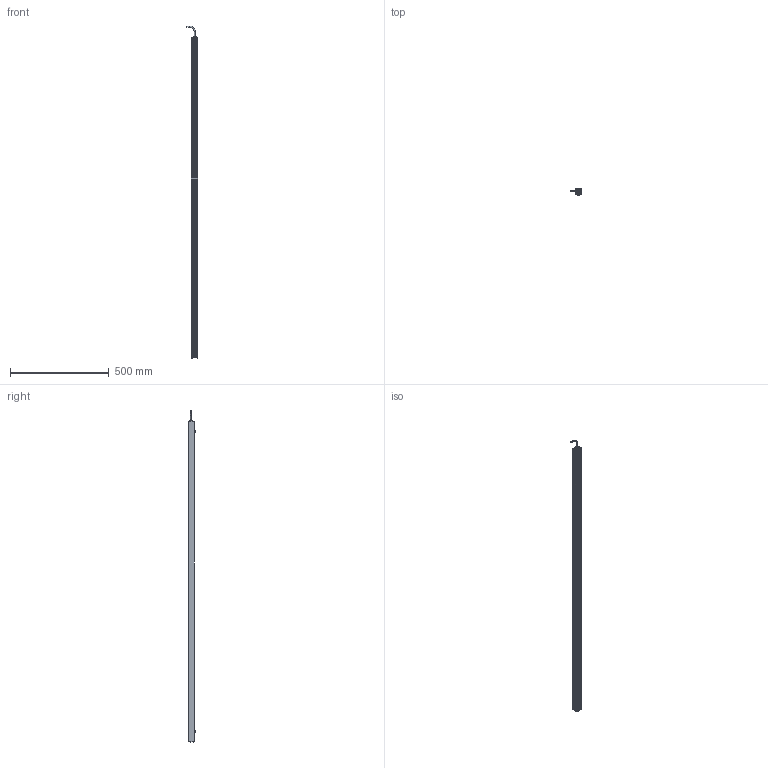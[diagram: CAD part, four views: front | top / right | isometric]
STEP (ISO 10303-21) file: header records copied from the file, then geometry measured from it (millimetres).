
FILE_DESCRIPTION (( 'STEP AP214' ), '1' );
FILE_NAME ('AL150XXXX_AL150372.stp', '2021-04-29T15:41:52', ( '' ), ( '' ), 'SwSTEP 2.0', 'SolidWorks 2018', '' );
FILE_SCHEMA (( 'AUTOMOTIVE_DESIGN' ));
Length unit declared in the file: inch
Products named in the file (12): AL150XXXX_AL150372; 150-01-005-XXX_150-01-005-372; 150-03-006-XXXX_150-03-006-372; 116-02-007; Part1^AL150XXXX; 092408_TRUNCATED; 1157 (no strap); CHM6x8_91460A312; 093145_93701A253; 116-02-006; HN-M6_90592A016; Part2^AL150XXXX
Assembly tree (18 placements, depth 2):
  AL150XXXX_AL150372
    150-01-005-XXX_150-01-005-372
    116-02-006
    093145_93701A253  x8
    HN-M6_90592A016  x2
    CHM6x8_91460A312  x2
    150-03-006-XXXX_150-03-006-372
    116-02-007
    1157 (no strap)
    092408_TRUNCATED
  Part1^AL150XXXX
  Part2^AL150XXXX
Bounding box: 60.68 x 33.84 x 1682.29 mm (x, y, z)
Volume: 503636.4 mm3; surface area: 532024.1 mm2
Topology: 26 solids, 26 shells, 1306 faces, 3436 edges, 2127 vertices
Faces by surface type: cylinder 805, cone 249, plane 153, torus 59, bspline 32, sphere 8
Entity records: 18285 total; most frequent: CARTESIAN_POINT 6069, ORIENTED_EDGE 2496, DIRECTION 2311, EDGE_CURVE 1248, AXIS2_PLACEMENT_3D 881, VERTEX_POINT 800, VECTOR 549, LINE 549
